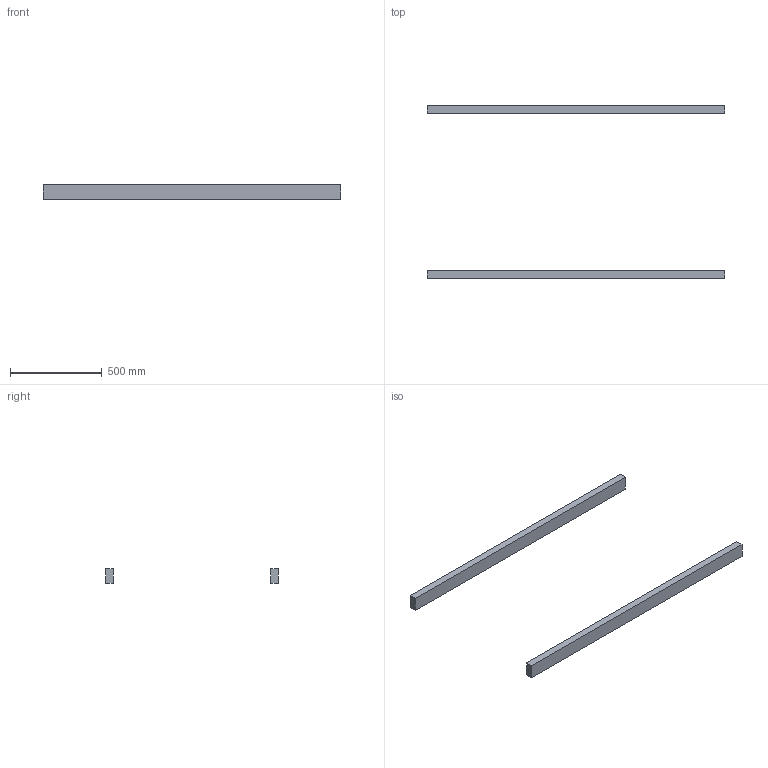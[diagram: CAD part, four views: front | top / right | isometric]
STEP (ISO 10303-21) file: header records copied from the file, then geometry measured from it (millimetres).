
FILE_DESCRIPTION(/* description */ (''),/* implementation_level */ '2;1');
FILE_NAME(/* name */ 'FRD99B~1',/* time_stamp */ '2014-02-14T19:31:04+01:00',/* author */ (''),/* organization */ (''),/* preprocessor_version */ 'ST-DEVELOPER v14',/* originating_system */ '',/* authorisation */ '');
FILE_SCHEMA (('AUTOMOTIVE_DESIGN'));
Length unit declared in the file: millimetre
Products named in the file (1): Document
Bounding box: 1620 x 940 x 80 mm (x, y, z)
Volume: 10368000 mm3; surface area: 790400 mm2
Topology: 2 solids, 2 shells, 12 faces, 24 edges, 16 vertices
Faces by surface type: plane 12
Entity records: 571 total; most frequent: CARTESIAN_POINT 174, B_SPLINE_CURVE_WITH_KNOTS 72, ORIENTED_EDGE 48, PCURVE 48, DEFINITIONAL_REPRESENTATION 48, SURFACE_CURVE 24, EDGE_CURVE 24, VERTEX_POINT 16
